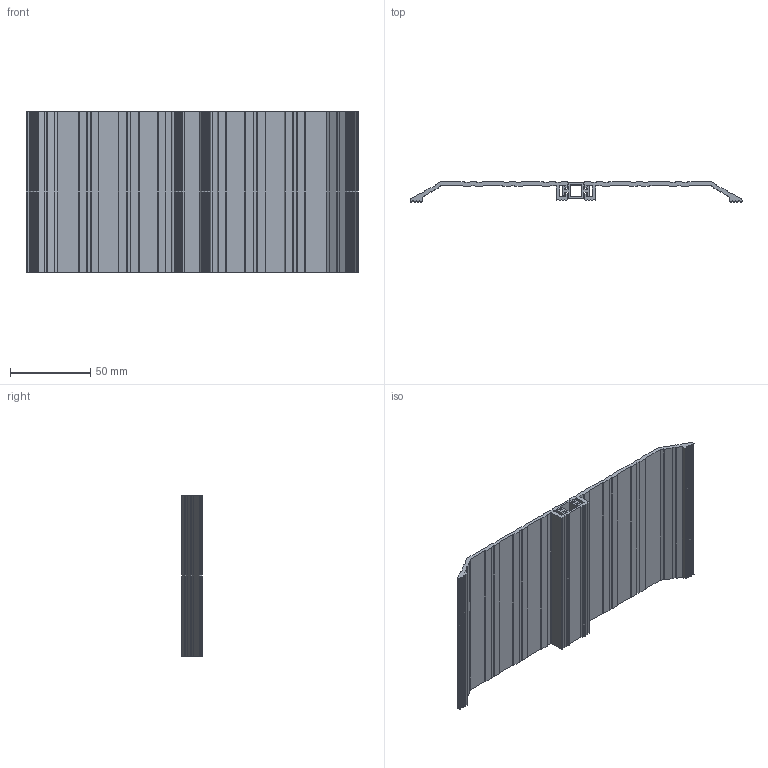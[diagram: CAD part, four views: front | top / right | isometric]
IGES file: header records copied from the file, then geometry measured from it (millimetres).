
Global section: file name: No Iges File Name specified; native system: Autodesk Inventor 2012; preprocessor: AutoDesk Inventor Iges Exporter R2012; author: anna.b; date: 20130725.115256; units: millimetre
Bounding box: 207.32 x 12.7 x 100 mm (x, y, z)
Volume: 62528.8 mm3; surface area: 61290.6 mm2
Topology: 3 solids, 3 shells, 262 faces, 768 edges, 512 vertices
Faces by surface type: plane 210, cylinder 30, revolution 22
